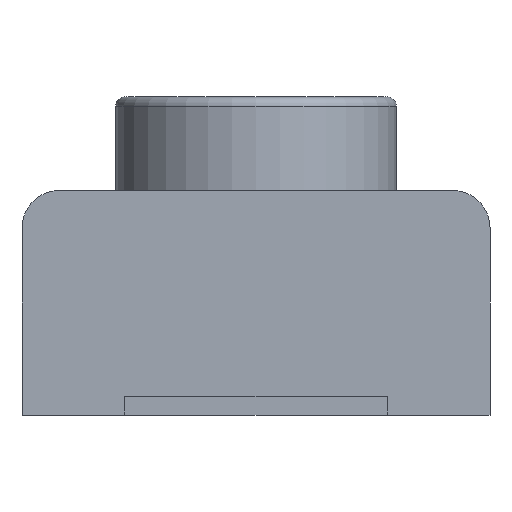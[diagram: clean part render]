
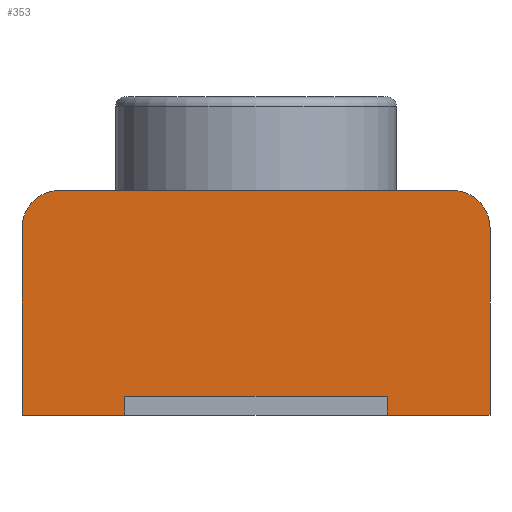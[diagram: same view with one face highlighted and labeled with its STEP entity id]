
A CAD part, left-side view. The second image highlights one B-rep face of the part: STEP entity #353.
In plain terms, the highlighted planar face has unit normal (-1, 0, 0).
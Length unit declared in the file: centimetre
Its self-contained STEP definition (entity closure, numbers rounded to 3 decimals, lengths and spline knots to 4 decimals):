
#38=PLANE('',#460);
#43=LINE('',#568,#81);
#53=LINE('',#592,#91);
#55=LINE('',#605,#93);
#56=LINE('',#607,#94);
#60=LINE('',#616,#98);
#65=LINE('',#626,#103);
#75=LINE('',#646,#113);
#76=LINE('',#647,#114);
#81=VECTOR('',#475,100.);
#91=VECTOR('',#495,100.);
#93=VECTOR('',#511,100.);
#94=VECTOR('',#514,100.);
#98=VECTOR('',#520,100.);
#103=VECTOR('',#529,100.);
#113=VECTOR('',#549,100.);
#114=VECTOR('',#550,100.);
#195=ORIENTED_EDGE('',*,*,#205,.F.);
#196=ORIENTED_EDGE('',*,*,#211,.F.);
#197=ORIENTED_EDGE('',*,*,#248,.F.);
#198=ORIENTED_EDGE('',*,*,#238,.T.);
#199=ORIENTED_EDGE('',*,*,#233,.T.);
#200=ORIENTED_EDGE('',*,*,#229,.T.);
#201=ORIENTED_EDGE('',*,*,#249,.F.);
#202=ORIENTED_EDGE('',*,*,#223,.T.);
#203=ORIENTED_EDGE('',*,*,#221,.F.);
#204=ORIENTED_EDGE('',*,*,#228,.F.);
#205=EDGE_CURVE('',#250,#251,#281,.T.);
#211=EDGE_CURVE('',#255,#250,#43,.T.);
#221=EDGE_CURVE('',#263,#264,#284,.T.);
#223=EDGE_CURVE('',#265,#264,#53,.T.);
#228=EDGE_CURVE('',#251,#263,#55,.T.);
#229=EDGE_CURVE('',#269,#270,#56,.T.);
#233=EDGE_CURVE('',#273,#269,#60,.T.);
#238=EDGE_CURVE('',#276,#273,#65,.T.);
#248=EDGE_CURVE('',#276,#255,#75,.T.);
#249=EDGE_CURVE('',#265,#270,#76,.T.);
#250=VERTEX_POINT('',#556);
#251=VERTEX_POINT('',#557);
#255=VERTEX_POINT('',#567);
#263=VERTEX_POINT('',#587);
#264=VERTEX_POINT('',#589);
#265=VERTEX_POINT('',#593);
#269=VERTEX_POINT('',#608);
#270=VERTEX_POINT('',#609);
#273=VERTEX_POINT('',#617);
#276=VERTEX_POINT('',#627);
#281=CIRCLE('',#436,0.02);
#284=CIRCLE('',#442,0.02);
#309=EDGE_LOOP('',(#195,#196,#197,#198,#199,#200,#201,#202,#203,#204));
#331=FACE_BOUND('',#309,.T.);
#353=ADVANCED_FACE('',(#331),#38,.T.);
#436=AXIS2_PLACEMENT_3D('',#555,#465,#466);
#442=AXIS2_PLACEMENT_3D('',#588,#490,#491);
#460=AXIS2_PLACEMENT_3D('',#648,#551,#552);
#465=DIRECTION('',(1.,0.,0.));
#466=DIRECTION('',(0.,0.707,0.707));
#475=DIRECTION('',(0.,0.,1.));
#490=DIRECTION('',(1.,0.,0.));
#491=DIRECTION('',(0.,-0.707,0.707));
#495=DIRECTION('',(0.,0.,1.));
#511=DIRECTION('',(0.,-1.,0.));
#514=DIRECTION('',(0.,0.,-1.));
#520=DIRECTION('',(0.,-1.,0.));
#529=DIRECTION('',(0.,0.,1.));
#549=DIRECTION('',(0.,1.,0.));
#550=DIRECTION('',(0.,1.,0.));
#551=DIRECTION('',(-1.,0.,0.));
#552=DIRECTION('',(0.,-1.,0.));
#555=CARTESIAN_POINT('',(0.2702,0.635,0.2744));
#556=CARTESIAN_POINT('',(0.2702,0.655,0.2744));
#557=CARTESIAN_POINT('',(0.2702,0.635,0.2944));
#567=CARTESIAN_POINT('',(0.2702,0.655,0.1744));
#568=CARTESIAN_POINT('',(0.2702,0.655,0.2244));
#587=CARTESIAN_POINT('',(0.2702,0.425,0.2944));
#588=CARTESIAN_POINT('',(0.2702,0.425,0.2744));
#589=CARTESIAN_POINT('',(0.2702,0.405,0.2744));
#592=CARTESIAN_POINT('',(0.2702,0.405,0.1744));
#593=CARTESIAN_POINT('',(0.2702,0.405,0.1744));
#605=CARTESIAN_POINT('',(0.2702,1.0476,0.2944));
#607=CARTESIAN_POINT('',(0.2702,0.4598,0.1744));
#608=CARTESIAN_POINT('',(0.2702,0.4598,0.1844));
#609=CARTESIAN_POINT('',(0.2702,0.4598,0.1744));
#616=CARTESIAN_POINT('',(0.2702,1.0476,0.1844));
#617=CARTESIAN_POINT('',(0.2702,0.6002,0.1844));
#626=CARTESIAN_POINT('',(0.2702,0.6002,0.1744));
#627=CARTESIAN_POINT('',(0.2702,0.6002,0.1744));
#646=CARTESIAN_POINT('',(0.2702,1.0476,0.1744));
#647=CARTESIAN_POINT('',(0.2702,1.0476,0.1744));
#648=CARTESIAN_POINT('',(0.2702,0.67,0.1744));
